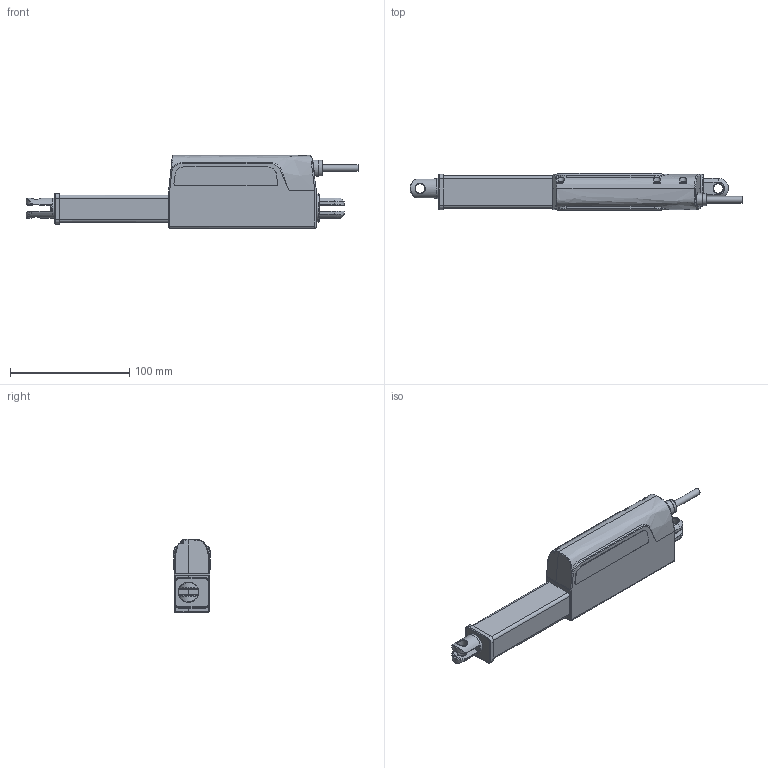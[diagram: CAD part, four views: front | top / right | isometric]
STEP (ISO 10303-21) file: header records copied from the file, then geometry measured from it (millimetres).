
FILE_DESCRIPTION (( 'STEP AP203' ), '1' );
FILE_NAME ('TA38-U型上端-安裝角度0度-C.STEP', '2020-04-24T07:27:48', ( '' ), ( '' ), 'SwSTEP 2.0', 'SolidWorks 2015', '' );
FILE_SCHEMA (( 'CONFIG_CONTROL_DESIGN' ));
Length unit declared in the file: millimetre
Products named in the file (1): TA38-U型上端-安裝角度0度-C
Bounding box: 278.4 x 31 x 61.5 mm (x, y, z)
Volume: 285251.5 mm3; surface area: 43311 mm2
Topology: 8 solids, 8 shells, 685 faces, 1809 edges, 1166 vertices
Faces by surface type: cylinder 290, plane 272, bspline 88, torus 21, cone 9, sphere 5
Full cylindrical faces by diameter (mm): 5.5 x10, 5.6 x3, 8 x4, 17 x2, 20 x1, 20.53 x1
Entity records: 28534 total; most frequent: CARTESIAN_POINT 12161, ORIENTED_EDGE 3488, DIRECTION 3264, EDGE_CURVE 1744, AXIS2_PLACEMENT_3D 1190, VERTEX_POINT 1143, LINE 884, VECTOR 884
